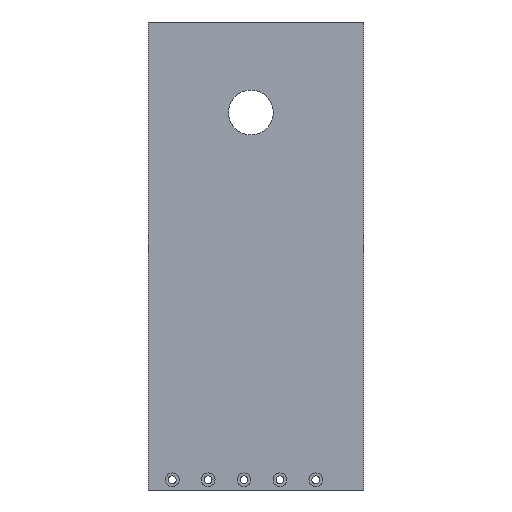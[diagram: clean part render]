
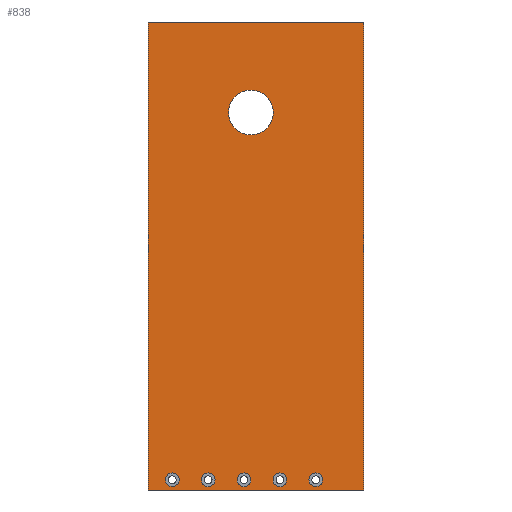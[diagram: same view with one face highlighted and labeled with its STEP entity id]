
A CAD part, front view. The second image highlights one B-rep face of the part: STEP entity #838.
In plain terms, the highlighted planar face has unit normal (0, -1, 0).
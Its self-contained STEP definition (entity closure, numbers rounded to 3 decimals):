
#26=LINE('',#1465,#44);
#29=LINE('',#1470,#47);
#30=LINE('',#1473,#48);
#31=LINE('',#1474,#49);
#44=VECTOR('',#1238,274.);
#47=VECTOR('',#1243,126.);
#48=VECTOR('',#1246,274.);
#49=VECTOR('',#1247,126.);
#61=PLANE('',#970);
#134=FACE_BOUND('',#334,.T.);
#135=FACE_BOUND('',#335,.T.);
#136=FACE_BOUND('',#336,.T.);
#137=FACE_BOUND('',#337,.T.);
#138=FACE_BOUND('',#338,.T.);
#139=FACE_BOUND('',#339,.T.);
#218=FACE_OUTER_BOUND('',#333,.T.);
#333=EDGE_LOOP('',(#708,#709,#710,#711));
#334=EDGE_LOOP('',(#712));
#335=EDGE_LOOP('',(#713));
#336=EDGE_LOOP('',(#714));
#337=EDGE_LOOP('',(#715));
#338=EDGE_LOOP('',(#716));
#339=EDGE_LOOP('',(#717));
#358=CIRCLE('',#845,13.145);
#373=CIRCLE('',#874,4.);
#377=CIRCLE('',#881,4.);
#381=CIRCLE('',#888,4.);
#385=CIRCLE('',#895,4.);
#389=CIRCLE('',#902,4.);
#422=VERTEX_POINT('',#1257);
#437=VERTEX_POINT('',#1301);
#441=VERTEX_POINT('',#1312);
#445=VERTEX_POINT('',#1323);
#449=VERTEX_POINT('',#1334);
#453=VERTEX_POINT('',#1345);
#493=VERTEX_POINT('',#1462);
#494=VERTEX_POINT('',#1464);
#495=VERTEX_POINT('',#1468);
#496=VERTEX_POINT('',#1472);
#498=EDGE_CURVE('',#422,#422,#358,.T.);
#513=EDGE_CURVE('',#437,#437,#373,.T.);
#517=EDGE_CURVE('',#441,#441,#377,.T.);
#521=EDGE_CURVE('',#445,#445,#381,.T.);
#525=EDGE_CURVE('',#449,#449,#385,.T.);
#529=EDGE_CURVE('',#453,#453,#389,.T.);
#572=EDGE_CURVE('',#494,#493,#26,.T.);
#575=EDGE_CURVE('',#493,#495,#29,.T.);
#576=EDGE_CURVE('',#495,#496,#30,.T.);
#577=EDGE_CURVE('',#496,#494,#31,.T.);
#708=ORIENTED_EDGE('',*,*,#576,.T.);
#709=ORIENTED_EDGE('',*,*,#577,.T.);
#710=ORIENTED_EDGE('',*,*,#572,.T.);
#711=ORIENTED_EDGE('',*,*,#575,.T.);
#712=ORIENTED_EDGE('',*,*,#498,.T.);
#713=ORIENTED_EDGE('',*,*,#513,.T.);
#714=ORIENTED_EDGE('',*,*,#517,.T.);
#715=ORIENTED_EDGE('',*,*,#521,.T.);
#716=ORIENTED_EDGE('',*,*,#525,.T.);
#717=ORIENTED_EDGE('',*,*,#529,.T.);
#838=ADVANCED_FACE('',(#218,#134,#135,#136,#137,#138,#139),#61,.T.);
#845=AXIS2_PLACEMENT_3D('',#1258,#979,#980);
#874=AXIS2_PLACEMENT_3D('',#1302,#1037,#1038);
#881=AXIS2_PLACEMENT_3D('',#1313,#1051,#1052);
#888=AXIS2_PLACEMENT_3D('',#1324,#1065,#1066);
#895=AXIS2_PLACEMENT_3D('',#1335,#1079,#1080);
#902=AXIS2_PLACEMENT_3D('',#1346,#1093,#1094);
#970=AXIS2_PLACEMENT_3D('',#1471,#1244,#1245);
#979=DIRECTION('center_axis',(0.,1.,0.));
#980=DIRECTION('ref_axis',(-1.,0.,0.));
#1037=DIRECTION('center_axis',(0.,1.,0.));
#1038=DIRECTION('ref_axis',(1.,0.,0.));
#1051=DIRECTION('center_axis',(0.,1.,0.));
#1052=DIRECTION('ref_axis',(1.,0.,0.));
#1065=DIRECTION('center_axis',(0.,1.,0.));
#1066=DIRECTION('ref_axis',(1.,0.,0.));
#1079=DIRECTION('center_axis',(0.,1.,0.));
#1080=DIRECTION('ref_axis',(1.,0.,0.));
#1093=DIRECTION('center_axis',(0.,1.,0.));
#1094=DIRECTION('ref_axis',(1.,0.,0.));
#1238=DIRECTION('',(0.,0.,-1.));
#1243=DIRECTION('',(1.,0.,0.));
#1244=DIRECTION('center_axis',(0.,-1.,0.));
#1245=DIRECTION('ref_axis',(0.,0.,-1.));
#1246=DIRECTION('',(0.,0.,1.));
#1247=DIRECTION('',(-1.,0.,0.));
#1257=CARTESIAN_POINT('',(10.145,-6.,84.));
#1258=CARTESIAN_POINT('Origin',(-3.,-6.,84.));
#1301=CARTESIAN_POINT('',(-24.,-6.,-131.));
#1302=CARTESIAN_POINT('Origin',(-28.,-6.,-131.));
#1312=CARTESIAN_POINT('',(18.,-6.,-131.));
#1313=CARTESIAN_POINT('Origin',(14.,-6.,-131.));
#1323=CARTESIAN_POINT('',(39.,-6.,-131.));
#1324=CARTESIAN_POINT('Origin',(35.,-6.,-131.));
#1334=CARTESIAN_POINT('',(-3.,-6.,-131.));
#1335=CARTESIAN_POINT('Origin',(-7.,-6.,-131.));
#1345=CARTESIAN_POINT('',(-45.,-6.,-131.));
#1346=CARTESIAN_POINT('Origin',(-49.,-6.,-131.));
#1462=CARTESIAN_POINT('',(-63.,-6.,-137.));
#1464=CARTESIAN_POINT('',(-63.,-6.,137.));
#1465=CARTESIAN_POINT('',(-63.,-6.,-137.));
#1468=CARTESIAN_POINT('',(63.,-6.,-137.));
#1470=CARTESIAN_POINT('',(63.,-6.,-137.));
#1471=CARTESIAN_POINT('Origin',(24.604,-6.,24.604));
#1472=CARTESIAN_POINT('',(63.,-6.,137.));
#1473=CARTESIAN_POINT('',(63.,-6.,137.));
#1474=CARTESIAN_POINT('',(-63.,-6.,137.));
